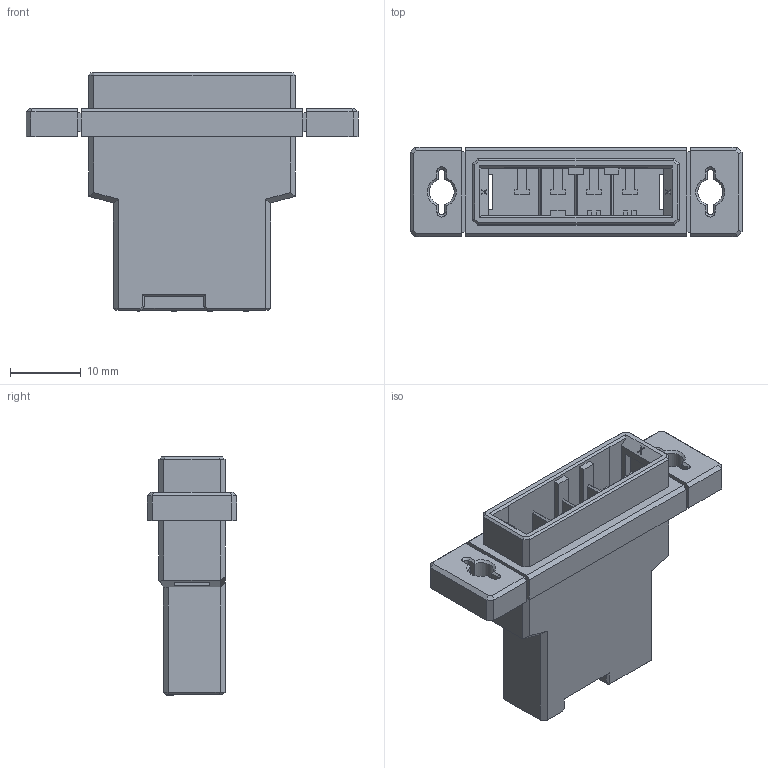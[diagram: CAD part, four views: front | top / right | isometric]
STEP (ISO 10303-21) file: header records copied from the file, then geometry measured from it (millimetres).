
FILE_DESCRIPTION (( 'STEP AP203' ), '1' );
FILE_NAME ('DK-3200S-04P.STEP', '2024-04-18T08:16:46', ( '' ), ( '' ), 'SwSTEP 2.0', 'SolidWorks 2018', '' );
FILE_SCHEMA (( 'CONFIG_CONTROL_DESIGN' ));
Length unit declared in the file: millimetre
Products named in the file (1): DK-3200S-04P
Bounding box: 46.99 x 12.7 x 33.7 mm (x, y, z)
Volume: 6121.9 mm3; surface area: 5650.5 mm2
Topology: 1 solids, 1 shells, 719 faces, 1960 edges, 1282 vertices
Faces by surface type: plane 541, bspline 158, cylinder 12, cone 8
Entity records: 26911 total; most frequent: CARTESIAN_POINT 9788, ORIENTED_EDGE 3920, DIRECTION 2772, EDGE_CURVE 1960, LINE 1584, VECTOR 1584, VERTEX_POINT 1282, EDGE_LOOP 766
